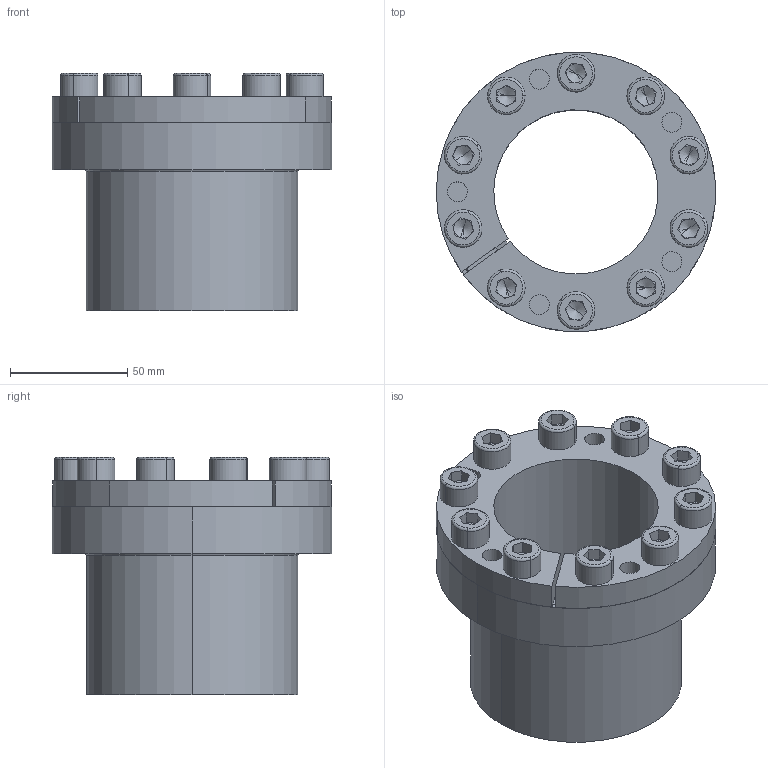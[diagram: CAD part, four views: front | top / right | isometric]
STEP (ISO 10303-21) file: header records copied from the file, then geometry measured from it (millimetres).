
FILE_DESCRIPTION (( 'STEP AP214' ), '1' );
FILE_NAME ('CONEX-B-70x90.step', '2013-04-04T12:42:19', ( 'Pc' ), ( '' ), 'SwSTEP 2.0', 'SolidWorks 2013', '' );
FILE_SCHEMA (( 'AUTOMOTIVE_DESIGN' ));
Length unit declared in the file: millimetre
Products named in the file (1): CONEX-B-70x90
Bounding box: 119 x 119 x 101 mm (x, y, z)
Volume: 350756.3 mm3; surface area: 145240.5 mm2
Topology: 13 solids, 13 shells, 360 faces, 828 edges, 494 vertices
Faces by surface type: plane 162, cylinder 106, torus 46, cone 46
Entity records: 14252 total; most frequent: DIRECTION 1916, CARTESIAN_POINT 1711, ORIENTED_EDGE 1616, EDGE_CURVE 808, AXIS2_PLACEMENT_3D 755, VERTEX_POINT 494, EDGE_LOOP 432, LINE 406
